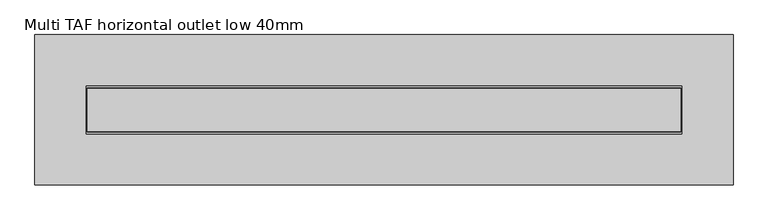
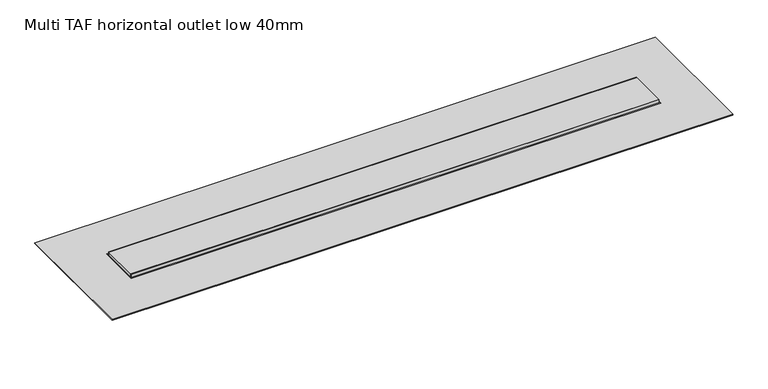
"""IFC4 building model written with IfcOpenShell, lengths in millimetres: sanitary terminal geometry, NLRS_PF_52_UN_Multi TAF uitloop_Easydrain : Multi TAF horizontal outlet low 40mm."""

import ifcopenshell
import ifcopenshell.guid

model = None  # the IFC model being written
_history = None  # IfcOwnerHistory: only IFC2X3 demands one
_inside = {}  # id of a spatial element -> (the spatial element, [elements in it])
_under = {}  # id of a project, library or spatial element -> (it, [spatial elements below it])
_declared = {}  # id of a project -> (the project, [libraries it declares])
_typed = {}  # id of a type object -> (the type object, [elements of that type])
_made_of = {}  # id of a material, layer set ... -> (it, [elements and type objects made of it])


def new_model(schema):
    """Start an empty IFC model of exactly this schema.

    Asked for "IFC4X3", IfcOpenShell would pick the latest addendum, in which some entities
    have other attributes; the version numbers below select the first issue.
    IFC2X3 requires an IfcOwnerHistory on every rooted entity: one is made here for all.
    """
    global model, _history
    if schema == "IFC4X3":
        model = ifcopenshell.file(schema_version=(4, 3, 0, 0))
    else:
        model = ifcopenshell.file(schema=schema)
    _inside.clear()
    _under.clear()
    _declared.clear()
    _typed.clear()
    _made_of.clear()
    _history = None
    if model.schema == "IFC2X3":
        org = make("IfcOrganization", Name="unknown")
        user = make(
            "IfcPersonAndOrganization",
            ThePerson=make("IfcPerson", FamilyName="unknown"),
            TheOrganization=org,
        )
        app = make(
            "IfcApplication",
            ApplicationDeveloper=org,
            Version="unknown",
            ApplicationFullName="unknown",
            ApplicationIdentifier="unknown",
        )
        _history = make(
            "IfcOwnerHistory",
            OwningUser=user,
            OwningApplication=app,
            ChangeAction="ADDED",
            CreationDate=0,
        )
    return model


def make(cls, **values):
    """One entity of the class cls with the attributes given. An attribute that is None is left unset."""
    return model.create_entity(
        cls, **{name: value for name, value in values.items() if value is not None}
    )


def rooted(cls, **values):
    """An entity with a GlobalId (a new one), such as an element, a storey or a relation."""
    return make(cls, GlobalId=ifcopenshell.guid.new(), OwnerHistory=_history, **values)


def si_unit(unit_type, name, prefix=None):
    """IfcSIUnit, for example si_unit("LENGTHUNIT", "METRE", prefix="MILLI")."""
    return make("IfcSIUnit", UnitType=unit_type, Prefix=prefix, Name=name)


def assignment(units):
    """IfcUnitAssignment: the units of a project."""
    return None if units is None else make("IfcUnitAssignment", Units=units)


def point(xyz):
    """IfcCartesianPoint."""
    return None if xyz is None else make("IfcCartesianPoint", Coordinates=xyz)


def direction(xyz):
    """IfcDirection."""
    return None if xyz is None else make("IfcDirection", DirectionRatios=xyz)


def frame(location, z_axis=None, x_axis=None):
    """IfcAxis2Placement3D, a coordinate frame: its origin and axes. An axis left out is left unset."""
    return make(
        "IfcAxis2Placement3D",
        Location=point(location),
        Axis=direction(z_axis),
        RefDirection=direction(x_axis),
    )


def origin():
    """The frame at (0, 0, 0) with its axes left unset."""
    return frame((0.0, 0.0, 0.0))


def place(relative_to, where):
    """IfcLocalPlacement: puts the frame where relative to a parent placement (None: the world)."""
    return make(
        "IfcLocalPlacement", PlacementRelTo=relative_to, RelativePlacement=where
    )


def context(
    kind, dimensions, precision=None, world=None, true_north=None, identifier=None
):
    """IfcGeometricRepresentationContext, for example the 3D "Model" context."""
    return make(
        "IfcGeometricRepresentationContext",
        ContextIdentifier=identifier,
        ContextType=kind,
        CoordinateSpaceDimension=dimensions,
        Precision=precision,
        WorldCoordinateSystem=world,
        TrueNorth=true_north,
    )


def project(units=None, contexts=None):
    """IfcProject with its units and contexts."""
    return rooted(
        "IfcProject",
        Name="project",
        RepresentationContexts=contexts,
        UnitsInContext=assignment(units),
    )


def spatial(cls, under=None, at=None, **own):
    """A site, building, storey or space (cls), placed at a placement, below another one or the project."""
    s = rooted(cls, ObjectPlacement=at, **own)
    if under is not None:
        _under.setdefault(under.id(), (under, []))[1].append(s)
    return s


def polyline(points):
    """IfcPolyline through the points."""
    return make("IfcPolyline", Points=[point(p) for p in points])


def circle_curve(where, radius):
    """IfcCircle in the frame where."""
    return make("IfcCircle", Position=where, Radius=radius)


def outline(outer, holes=None, kind="AREA"):
    """IfcArbitraryClosedProfileDef: a profile drawn as a closed curve; with holes, ...WithVoids."""
    if holes is None:
        return make("IfcArbitraryClosedProfileDef", ProfileType=kind, OuterCurve=outer)
    return make(
        "IfcArbitraryProfileDefWithVoids",
        ProfileType=kind,
        OuterCurve=outer,
        InnerCurves=holes,
    )


def extrude(swept, where, along, depth):
    """IfcExtrudedAreaSolid: the profile swept, set in the frame where, extruded along a direction by depth."""
    return make(
        "IfcExtrudedAreaSolid",
        SweptArea=swept,
        Position=where,
        ExtrudedDirection=direction(along),
        Depth=depth,
    )


def faces_of(points, faces, orient=None, outer=None):
    """IfcFace entities. A face is a list of loops; a loop is a list of indices into points, from 0.

    orient and outer hold one flag for each loop. By default every Orientation is true, the
    first loop of a face is its IfcFaceOuterBound and the others are IfcFaceBound.
    """
    made = []
    for i, loops in enumerate(faces):
        bounds = []
        for j, loop in enumerate(loops):
            is_outer = j == 0 if outer is None else outer[i][j]
            bounds.append(
                make(
                    "IfcFaceOuterBound" if is_outer else "IfcFaceBound",
                    Bound=make("IfcPolyLoop", Polygon=[points[k] for k in loop]),
                    Orientation=True if orient is None else orient[i][j],
                )
            )
        made.append(make("IfcFace", Bounds=bounds))
    return made


def faceted_brep(points, faces, orient=None, outer=None, voids=None):
    """IfcFacetedBrep: a solid bounded by flat faces; with voids (closed shells), ...WithVoids."""
    shared = [point(p) for p in points]
    hull = make("IfcClosedShell", CfsFaces=faces_of(shared, faces, orient, outer))
    if voids is None:
        return make("IfcFacetedBrep", Outer=hull)
    return make(
        "IfcFacetedBrepWithVoids",
        Outer=hull,
        Voids=[
            make(cls, CfsFaces=faces_of(shared, fs, o, b)) for cls, fs, o, b in voids
        ],
    )


def shape(context_of_items, identifier, shape_type, items):
    """IfcShapeRepresentation: the items that make up one representation, for example the "Body"."""
    return make(
        "IfcShapeRepresentation",
        ContextOfItems=context_of_items,
        RepresentationIdentifier=identifier,
        RepresentationType=shape_type,
        Items=items,
    )


def source(mapping_origin, context_of_items, identifier, shape_type, items):
    """IfcRepresentationMap: a shape defined once, which mapped items show again and again."""
    return make(
        "IfcRepresentationMap",
        MappingOrigin=mapping_origin,
        MappedRepresentation=shape(context_of_items, identifier, shape_type, items),
    )


def transform(
    local_origin,
    x_axis=None,
    y_axis=None,
    z_axis=None,
    scale=None,
    scale2=None,
    scale3=None,
    uniform=True,
):
    """IfcCartesianTransformationOperator3D, or its non-uniform kind. x_axis, y_axis, z_axis: its Axis1, 2, 3."""
    if uniform:
        return make(
            "IfcCartesianTransformationOperator3D",
            Axis1=direction(x_axis),
            Axis2=direction(y_axis),
            LocalOrigin=point(local_origin),
            Scale=scale,
            Axis3=direction(z_axis),
        )
    return make(
        "IfcCartesianTransformationOperator3DnonUniform",
        Axis1=direction(x_axis),
        Axis2=direction(y_axis),
        LocalOrigin=point(local_origin),
        Scale=scale,
        Axis3=direction(z_axis),
        Scale2=scale2,
        Scale3=scale3,
    )


def mapped(mapping_source, mapping_target):
    """IfcMappedItem: shows the shape of a source again, moved by a transform."""
    return make(
        "IfcMappedItem", MappingSource=mapping_source, MappingTarget=mapping_target
    )


def made_of(thing, what):
    """Note that an element or type object is made of a material, layer set ...; save() writes the relation."""
    if what is not None:
        _made_of.setdefault(what.id(), (what, []))[1].append(thing)
    return thing


def element(
    cls,
    number,
    at=None,
    inside=None,
    cuts=None,
    type_object=None,
    material=None,
    context=None,
    identifier="Body",
    shape_type=None,
    held_by="IfcProductDefinitionShape",
    body=None,
    shapes=None,
    **own,
):
    """One element of the class cls, such as IfcWall. Its Tag is "e" and its number.

    at: its placement. inside: the storey or other place that contains it. cuts: it is an
    opening in that element (IfcRelVoidsElement). A single representation is given by context,
    identifier, shape_type and body (its items); several are given by shapes. held_by: the class
    of the entity that holds the representations. save() writes the other relations.
    """
    e = rooted(cls, Tag="e%d" % number, ObjectPlacement=at, **own)
    if body is not None:
        shapes = [shape(context, identifier, shape_type, body)]
    if shapes is not None:
        e.Representation = make(held_by, Representations=shapes)
    if inside is not None:
        _inside.setdefault(inside.id(), (inside, []))[1].append(e)
    if cuts is not None:
        rooted(
            "IfcRelVoidsElement", RelatingBuildingElement=cuts, RelatedOpeningElement=e
        )
    if type_object is not None:
        _typed.setdefault(type_object.id(), (type_object, []))[1].append(e)
    return made_of(e, material)


def aggregate(whole, parts):
    """IfcRelAggregates: a whole, such as a stair, and the parts it consists of."""
    return rooted("IfcRelAggregates", RelatingObject=whole, RelatedObjects=parts)


def save(model, path):
    """Write the relations noted so far, then the file.

    IfcRelAggregates (storeys below a building ...), IfcRelContainedInSpatialStructure (elements
    in a storey), IfcRelDefinesByType, IfcRelAssociatesMaterial and IfcRelDeclares: one each for
    every whole, place, type object, material and project.
    """
    for whole, parts in _under.values():
        aggregate(whole, parts)
    for where, things in _inside.values():
        rooted(
            "IfcRelContainedInSpatialStructure",
            RelatedElements=things,
            RelatingStructure=where,
        )
    for kind, things in _typed.values():
        rooted("IfcRelDefinesByType", RelatedObjects=things, RelatingType=kind)
    for what, things in _made_of.values():
        rooted("IfcRelAssociatesMaterial", RelatedObjects=things, RelatingMaterial=what)
    for by, libraries in _declared.values():
        rooted("IfcRelDeclares", RelatingContext=by, RelatedDefinitions=libraries)
    model.write(path)


def plane_surface(at):
    """IfcPlane: the flat surface through the origin of the frame at, square to its z axis."""
    return make("IfcPlane", Position=at)


def cylinder_surface(at, radius):
    """IfcCylindricalSurface: all points at the distance radius from the z axis of the frame at."""
    return make("IfcCylindricalSurface", Position=at, Radius=radius)


def revolved_surface(curve, axis_point, axis_direction):
    """IfcSurfaceOfRevolution: the curve turned about the line through axis_point along axis_direction."""
    return make(
        "IfcSurfaceOfRevolution",
        SweptCurve=make("IfcArbitraryOpenProfileDef", ProfileType="CURVE", Curve=curve),
        AxisPosition=make("IfcAxis1Placement", Location=point(axis_point), Axis=direction(axis_direction)),
    )


def advanced_brep(points, edges, surfaces, faces):
    """IfcAdvancedBrep: a solid bounded by faces that lie on surfaces and meet in shared edges.

    An edge is (start, end): straight between two places in points (the first is 0);
    or (start, end, curve); or (start, end, curve, False) where it runs against its curve.
    A face is (place in surfaces, loops), or (place, loops, False) where it looks against
    its surface's normal. A loop lists edges by number (the first is 1), with a minus sign
    where the edge is run from its end to its start. The first loop is the outer one.
    """
    corners = [point(p) for p in points]
    vertices = [make("IfcVertexPoint", VertexGeometry=c) for c in corners]
    made = []
    for start, end, *more in edges:
        made.append(
            make(
                "IfcEdgeCurve",
                EdgeStart=vertices[start],
                EdgeEnd=vertices[end],
                EdgeGeometry=more[0] if more else make("IfcPolyline", Points=[corners[start], corners[end]]),
                SameSense=more[1] if len(more) > 1 else True,
            )
        )
    hull = []
    for where, loops, *sense in faces:
        bounds = []
        for j, loop in enumerate(loops):
            ring = [make("IfcOrientedEdge", EdgeElement=made[abs(k) - 1], Orientation=k > 0) for k in loop]
            bounds.append(
                make(
                    "IfcFaceOuterBound" if j == 0 else "IfcFaceBound",
                    Bound=make("IfcEdgeLoop", EdgeList=ring),
                    Orientation=True,
                )
            )
        hull.append(make("IfcAdvancedFace", Bounds=bounds, FaceSurface=surfaces[where], SameSense=sense[0] if sense else True))
    return make("IfcAdvancedBrep", Outer=make("IfcClosedShell", CfsFaces=hull))


def multi_taf_horizontal_outlet_low_40mm_2f109a31(model_context):
    return source(origin(), model_context, "Body", "SolidModel", [
        advanced_brep(
        [(895.5, 0.0, -67.0), (889.5, 0.0, -67.0), (892.5, 0.0, -67.0), (895.5, 0.0, -78.5), (889.5, 0.0, -78.5), (907.5, 0.0, -86.0), (877.5, 0.0, -86.0), (892.5, 0.0, -86.0)],
        [
            (0, 1, circle_curve(frame((892.5, 0.0, -67.0), z_axis=(0.0, 0.0, 1.0), x_axis=(-1.0, 0.0, 0.0)), 3.0)),
            (1, 2),
            (2, 0),
            (1, 0, circle_curve(frame((892.5, 0.0, -67.0), z_axis=(0.0, 0.0, 1.0), x_axis=(-1.0, 0.0, 0.0)), 3.0)),
            (3, 4, circle_curve(frame((892.5, 0.0, -78.5), z_axis=(0.0, 0.0, 1.0), x_axis=(-1.0, 0.0, 0.0)), 3.0)),
            (4, 1),
            (0, 3),
            (4, 3, circle_curve(frame((892.5, 0.0, -78.5), z_axis=(0.0, 0.0, 1.0), x_axis=(-1.0, 0.0, 0.0)), 3.0)),
            (5, 6, circle_curve(frame((892.5, 0.0, -86.0), z_axis=(0.0, 0.0, 1.0), x_axis=(-1.0, 0.0, 0.0)), 15.0)),
            (6, 4),
            (3, 5),
            (6, 5, circle_curve(frame((892.5, 0.0, -86.0), z_axis=(0.0, 0.0, 1.0), x_axis=(-1.0, 0.0, 0.0)), 15.0)),
            (7, 6),
            (5, 7),
        ],
        [
            plane_surface(frame((892.5, 0.0, -67.0), z_axis=(0.0, 0.0, 1.0), x_axis=(-1.0, 0.0, 0.0))),
            cylinder_surface(frame((892.5, 0.0, -94.1782032), z_axis=(0.0, 0.0, -1.0), x_axis=(-1.0, 0.0, 0.0)), 3.0),
            revolved_surface(polyline([(889.5, 0.0, -78.5), (877.5, 0.0, -86.0)]), (892.5, 0.0, -94.1782032), (0.0, 0.0, -1.0)),
            plane_surface(frame((892.5, 0.0, -86.0), z_axis=(0.0, 0.0, -1.0), x_axis=(-1.0, 0.0, 0.0))),
        ],
        [
            (0, [[1, 2, 3]]),
            (0, [[4, -3, -2]]),
            (1, [[5, 6, -1, 7]]),
            (1, [[8, -7, -4, -6]]),
            (2, [[9, 10, -5, 11]]),
            (2, [[12, -11, -8, -10]]),
            (3, [[13, -9, 14]]),
            (3, [[-14, -12, -13]]),
        ],
    ),
        faceted_brep([(882.5, 10.0, -67.0), (902.5, 10.0, -67.0), (902.5, -10.0, -67.0), (882.5, -10.0, -67.0), (877.5, 15.0, -27.0), (877.5, -15.0, -27.0), (907.5, -15.0, -27.0), (907.5, 15.0, -27.0)], [[[0, 1, 2, 3]], [[4, 5, 6, 7]], [[5, 4, 0, 3]], [[6, 5, 3, 2]], [[7, 6, 2, 1]], [[4, 7, 1, 0]]]),
        advanced_brep(
        [(-189.5, 0.0, -67.0), (-195.5, 0.0, -67.0), (-192.5, 0.0, -67.0), (-189.5, 0.0, -78.5), (-195.5, 0.0, -78.5), (-177.5, 0.0, -86.0), (-207.5, 0.0, -86.0), (-192.5, 0.0, -86.0)],
        [
            (0, 1, circle_curve(frame((-192.5, 0.0, -67.0), z_axis=(0.0, 0.0, 1.0), x_axis=(-1.0, 0.0, 0.0)), 3.0)),
            (1, 2),
            (2, 0),
            (1, 0, circle_curve(frame((-192.5, 0.0, -67.0), z_axis=(0.0, 0.0, 1.0), x_axis=(-1.0, 0.0, 0.0)), 3.0)),
            (3, 4, circle_curve(frame((-192.5, 0.0, -78.5), z_axis=(0.0, 0.0, 1.0), x_axis=(-1.0, 0.0, 0.0)), 3.0)),
            (4, 1),
            (0, 3),
            (4, 3, circle_curve(frame((-192.5, 0.0, -78.5), z_axis=(0.0, 0.0, 1.0), x_axis=(-1.0, 0.0, 0.0)), 3.0)),
            (5, 6, circle_curve(frame((-192.5, 0.0, -86.0), z_axis=(0.0, 0.0, 1.0), x_axis=(-1.0, 0.0, 0.0)), 15.0)),
            (6, 4),
            (3, 5),
            (6, 5, circle_curve(frame((-192.5, 0.0, -86.0), z_axis=(0.0, 0.0, 1.0), x_axis=(-1.0, 0.0, 0.0)), 15.0)),
            (7, 6),
            (5, 7),
        ],
        [
            plane_surface(frame((-192.5, 0.0, -67.0), z_axis=(0.0, 0.0, 1.0), x_axis=(-1.0, 0.0, 0.0))),
            cylinder_surface(frame((-192.5, 0.0, -94.1782032), z_axis=(0.0, 0.0, -1.0), x_axis=(-1.0, 0.0, 0.0)), 3.0),
            revolved_surface(polyline([(-195.5, 0.0, -78.5), (-207.5, 0.0, -86.0)]), (-192.5, 0.0, -94.1782032), (0.0, 0.0, -1.0)),
            plane_surface(frame((-192.5, 0.0, -86.0), z_axis=(0.0, 0.0, -1.0), x_axis=(-1.0, 0.0, 0.0))),
        ],
        [
            (0, [[1, 2, 3]]),
            (0, [[4, -3, -2]]),
            (1, [[5, 6, -1, 7]]),
            (1, [[8, -7, -4, -6]]),
            (2, [[9, 10, -5, 11]]),
            (2, [[12, -11, -8, -10]]),
            (3, [[13, -9, 14]]),
            (3, [[-14, -12, -13]]),
        ],
    ),
        faceted_brep([(-202.5, 10.0, -67.0), (-182.5, 10.0, -67.0), (-182.5, -10.0, -67.0), (-202.5, -10.0, -67.0), (-207.5, 15.0, -27.0), (-207.5, -15.0, -27.0), (-177.5, -15.0, -27.0), (-177.5, 15.0, -27.0)], [[[0, 1, 2, 3]], [[4, 5, 6, 7]], [[5, 4, 0, 3]], [[6, 5, 3, 2]], [[7, 6, 2, 1]], [[4, 7, 1, 0]]]),
        extrude(outline(polyline([(930.5, 42.0), (930.5, -42.0), (-230.5, -42.0), (-230.5, 42.0), (930.5, 42.0)])), frame((0.0, 0.0, -7.0), z_axis=(0.0, 0.0, 1.0), x_axis=(1.0, 0.0, 0.0)), (0.0, 0.0, 1.0), 7.0),
        extrude(outline(polyline([(930.5, 43.0), (930.5, 42.0), (-230.5, 42.0), (-230.5, 43.0), (930.5, 43.0)])), frame((0.0, 0.0, -7.0), z_axis=(0.0, 0.0, 1.0), x_axis=(1.0, 0.0, 0.0)), (0.0, 0.0, 1.0), 7.0),
        extrude(outline(polyline([(930.5, -43.0), (-230.5, -43.0), (-230.5, -42.0), (930.5, -42.0), (930.5, -43.0)])), frame((0.0, 0.0, -7.0), z_axis=(0.0, 0.0, 1.0), x_axis=(1.0, 0.0, 0.0)), (0.0, 0.0, 1.0), 7.0),
        extrude(outline(polyline([(1032.5, 147.0), (1032.5, -147.0), (-332.5, -147.0), (-332.5, 147.0), (1032.5, 147.0)]), holes=[polyline([(932.5, 47.0), (-232.5, 47.0), (-232.5, -47.0), (932.5, -47.0), (932.5, 47.0)])]), frame((0.0, 0.0, -8.0), z_axis=(0.0, 0.0, 1.0), x_axis=(1.0, 0.0, 0.0)), (0.0, 0.0, 1.0), 2.0),
        faceted_brep([(932.5, 47.0, -27.0), (-232.5, 47.0, -27.0), (-232.5, 47.0, -9.0), (932.5, 47.0, -9.0), (-232.5, -47.0, -27.0), (932.5, -47.0, -27.0), (932.5, -47.0, -9.0), (-232.5, -47.0, -9.0), (950.0, 64.5, -7.0), (-250.0, 64.5, -7.0), (-250.0, -81.5, -7.0), (950.0, -81.5, -7.0), (950.0, 64.5, -9.0), (950.0, -81.5, -9.0), (-250.0, -81.5, -9.0), (-250.0, 64.5, -9.0)], [[[0, 1, 2, 3]], [[4, 5, 6, 7]], [[1, 0, 5, 4]], [[5, 0, 3, 6]], [[8, 9, 10, 11]], [[1, 4, 7, 2]], [[12, 13, 14, 15], [3, 2, 7, 6]], [[9, 8, 12, 15]], [[10, 9, 15, 14]], [[11, 10, 14, 13]], [[8, 11, 13, 12]]]),
    ])


if __name__ == "__main__":
    model = new_model("IFC4")
    model_context = context("Model", 3, world=origin())
    ifc_project = project(units=[si_unit("LENGTHUNIT", "METRE", prefix="MILLI")], contexts=[model_context])
    site = spatial("IfcSite", under=ifc_project)
    building = spatial("IfcBuilding", under=site)
    placement = place(None, origin())
    multi_taf_horizontal_outlet_low_40mm_shape = multi_taf_horizontal_outlet_low_40mm_2f109a31(model_context)
    element("IfcSanitaryTerminal", 1, ObjectType="NLRS_PF_52_UN_Multi TAF uitloop_Easydrain : Multi TAF horizontal outlet low 40mm", at=placement, inside=building, context=model_context, shape_type="MappedRepresentation", body=[
        mapped(multi_taf_horizontal_outlet_low_40mm_shape, transform((0.0, 0.0, 0.0), x_axis=(1.0, 0.0, 0.0), y_axis=(0.0, 1.0, 0.0), z_axis=(0.0, 0.0, 1.0))),
    ])
    save(model, "model.ifc")
